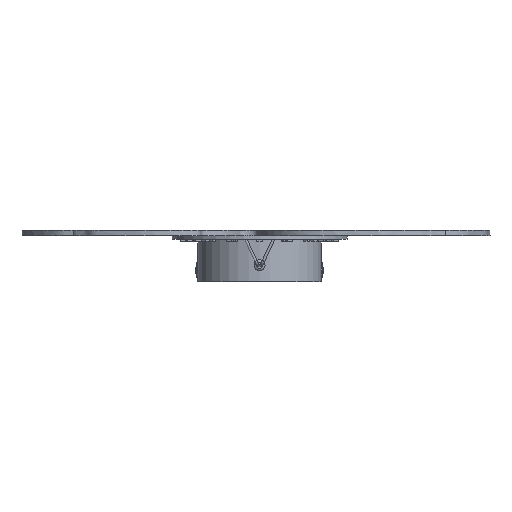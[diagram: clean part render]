
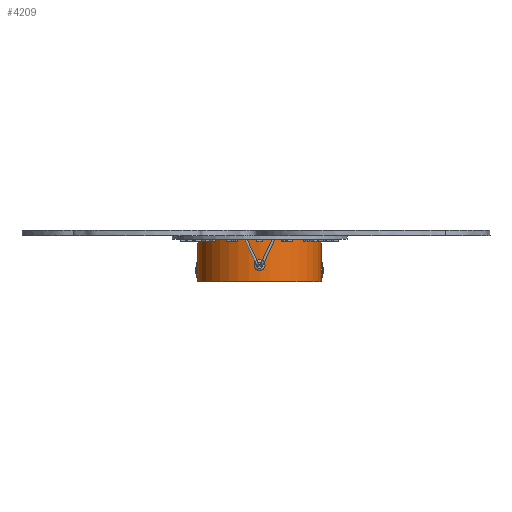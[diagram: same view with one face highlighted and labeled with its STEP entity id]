
A CAD part, front view. The second image highlights one B-rep face of the part: STEP entity #4209.
In plain terms, the highlighted cylindrical face has radius 33.5 mm (diameter 67 mm), a full revolution.
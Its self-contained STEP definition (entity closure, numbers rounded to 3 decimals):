
#25=FACE_BOUND('',#763,.T.);
#74=B_SPLINE_CURVE_WITH_KNOTS('',3,(#11605,#11606,#11607,#11608,#11609,
#11610),.UNSPECIFIED.,.F.,.F.,(4,2,4),(0.641,0.801,
0.84),.UNSPECIFIED.);
#75=B_SPLINE_CURVE_WITH_KNOTS('',3,(#11611,#11612,#11613,#11614,#11615,
#11616),.UNSPECIFIED.,.F.,.F.,(4,2,4),(0.442,0.481,
0.641),.UNSPECIFIED.);
#77=B_SPLINE_CURVE_WITH_KNOTS('',3,(#11629,#11630,#11631,#11632,#11633,
#11634),.UNSPECIFIED.,.F.,.F.,(4,2,4),(1.923,2.084,
2.123),.UNSPECIFIED.);
#78=B_SPLINE_CURVE_WITH_KNOTS('',3,(#11636,#11637,#11638,#11639,#11640,
#11641),.UNSPECIFIED.,.F.,.F.,(4,2,4),(1.724,1.763,
1.923),.UNSPECIFIED.);
#479=FACE_OUTER_BOUND('',#762,.T.);
#762=EDGE_LOOP('',(#3269,#3270,#3271,#3272,#3273,#3274,#3275,#3276,#3277,
#3278,#3279,#3280));
#763=EDGE_LOOP('',(#3281,#3282,#3283,#3284,#3285));
#1048=LINE('',#11579,#1524);
#1052=LINE('',#11591,#1528);
#1058=LINE('',#11655,#1534);
#1060=LINE('',#11660,#1536);
#1064=LINE('',#11680,#1540);
#1065=LINE('',#11682,#1541);
#1524=VECTOR('',#5065,10.);
#1528=VECTOR('',#5077,10.);
#1534=VECTOR('',#5089,10.);
#1536=VECTOR('',#5093,10.);
#1540=VECTOR('',#5119,33.5);
#1541=VECTOR('',#5120,33.5);
#1965=CIRCLE('',#4576,33.5);
#1967=CIRCLE('',#4584,33.5);
#1968=CIRCLE('',#4585,33.5);
#1972=CIRCLE('',#4592,33.5);
#1973=CIRCLE('',#4593,33.5);
#2084=VERTEX_POINT('',#11576);
#2085=VERTEX_POINT('',#11578);
#2087=VERTEX_POINT('',#11584);
#2089=VERTEX_POINT('',#11590);
#2090=VERTEX_POINT('',#11604);
#2093=VERTEX_POINT('',#11626);
#2094=VERTEX_POINT('',#11628);
#2095=VERTEX_POINT('',#11635);
#2098=VERTEX_POINT('',#11653);
#2100=VERTEX_POINT('',#11659);
#2102=VERTEX_POINT('',#11665);
#2105=VERTEX_POINT('',#11678);
#2106=VERTEX_POINT('',#11681);
#2512=EDGE_CURVE('',#2085,#2084,#1048,.T.);
#2515=EDGE_CURVE('',#2087,#2085,#1965,.T.);
#2518=EDGE_CURVE('',#2089,#2087,#1052,.T.);
#2521=EDGE_CURVE('',#2090,#2089,#74,.T.);
#2522=EDGE_CURVE('',#2084,#2090,#75,.T.);
#2525=EDGE_CURVE('',#2094,#2093,#77,.T.);
#2526=EDGE_CURVE('',#2095,#2094,#78,.T.);
#2531=EDGE_CURVE('',#2093,#2098,#1058,.T.);
#2533=EDGE_CURVE('',#2100,#2095,#1060,.T.);
#2536=EDGE_CURVE('',#2102,#2100,#1967,.T.);
#2537=EDGE_CURVE('',#2098,#2102,#1968,.T.);
#2543=EDGE_CURVE('',#2105,#2105,#1972,.T.);
#2544=EDGE_CURVE('',#2105,#2102,#1064,.T.);
#2545=EDGE_CURVE('',#2094,#2106,#1065,.T.);
#2546=EDGE_CURVE('',#2106,#2106,#1973,.T.);
#3269=ORIENTED_EDGE('',*,*,#2543,.F.);
#3270=ORIENTED_EDGE('',*,*,#2544,.T.);
#3271=ORIENTED_EDGE('',*,*,#2536,.T.);
#3272=ORIENTED_EDGE('',*,*,#2533,.T.);
#3273=ORIENTED_EDGE('',*,*,#2526,.T.);
#3274=ORIENTED_EDGE('',*,*,#2545,.T.);
#3275=ORIENTED_EDGE('',*,*,#2546,.T.);
#3276=ORIENTED_EDGE('',*,*,#2545,.F.);
#3277=ORIENTED_EDGE('',*,*,#2525,.T.);
#3278=ORIENTED_EDGE('',*,*,#2531,.T.);
#3279=ORIENTED_EDGE('',*,*,#2537,.T.);
#3280=ORIENTED_EDGE('',*,*,#2544,.F.);
#3281=ORIENTED_EDGE('',*,*,#2518,.T.);
#3282=ORIENTED_EDGE('',*,*,#2515,.T.);
#3283=ORIENTED_EDGE('',*,*,#2512,.T.);
#3284=ORIENTED_EDGE('',*,*,#2522,.T.);
#3285=ORIENTED_EDGE('',*,*,#2521,.T.);
#4136=CYLINDRICAL_SURFACE('',#4591,33.5);
#4209=ADVANCED_FACE('',(#479,#25),#4136,.T.);
#4576=AXIS2_PLACEMENT_3D('',#11585,#5071,#5072);
#4584=AXIS2_PLACEMENT_3D('',#11666,#5099,#5100);
#4585=AXIS2_PLACEMENT_3D('',#11667,#5101,#5102);
#4591=AXIS2_PLACEMENT_3D('',#11677,#5115,#5116);
#4592=AXIS2_PLACEMENT_3D('',#11679,#5117,#5118);
#4593=AXIS2_PLACEMENT_3D('',#11683,#5121,#5122);
#5065=DIRECTION('',(0.,0.,1.));
#5071=DIRECTION('center_axis',(0.,0.,-1.));
#5072=DIRECTION('ref_axis',(-1.,0.,0.));
#5077=DIRECTION('',(0.,0.,-1.));
#5089=DIRECTION('',(0.,0.,-1.));
#5093=DIRECTION('',(0.,0.,1.));
#5099=DIRECTION('center_axis',(0.,0.,-1.));
#5100=DIRECTION('ref_axis',(-1.,0.,0.));
#5101=DIRECTION('center_axis',(0.,0.,-1.));
#5102=DIRECTION('ref_axis',(-1.,0.,0.));
#5115=DIRECTION('center_axis',(0.,0.,-1.));
#5116=DIRECTION('ref_axis',(-1.,0.,0.));
#5117=DIRECTION('center_axis',(0.,0.,-1.));
#5118=DIRECTION('ref_axis',(-1.,0.,0.));
#5119=DIRECTION('',(0.,0.,1.));
#5120=DIRECTION('',(0.,0.,1.));
#5121=DIRECTION('center_axis',(0.,0.,-1.));
#5122=DIRECTION('ref_axis',(-1.,0.,0.));
#11576=CARTESIAN_POINT('',(-33.44,-35.,-13.517));
#11578=CARTESIAN_POINT('',(-33.44,-35.,-20.517));
#11579=CARTESIAN_POINT('',(-33.44,-35.,-17.017));
#11584=CARTESIAN_POINT('',(-33.44,-39.,-20.517));
#11585=CARTESIAN_POINT('Origin',(0.,-37.,-20.517));
#11590=CARTESIAN_POINT('',(-33.44,-39.,-13.517));
#11591=CARTESIAN_POINT('',(-33.44,-39.,0.));
#11604=CARTESIAN_POINT('',(-33.5,-37.,-13.017));
#11605=CARTESIAN_POINT('Ctrl Pts',(-33.5,-37.,-13.017));
#11606=CARTESIAN_POINT('Ctrl Pts',(-33.5,-37.534,-13.017));
#11607=CARTESIAN_POINT('Ctrl Pts',(-33.486,-38.104,
-13.124));
#11608=CARTESIAN_POINT('Ctrl Pts',(-33.454,-38.754,-13.394));
#11609=CARTESIAN_POINT('Ctrl Pts',(-33.447,-38.879,-13.452));
#11610=CARTESIAN_POINT('Ctrl Pts',(-33.44,-39.,
-13.517));
#11611=CARTESIAN_POINT('Ctrl Pts',(-33.44,-35.,-13.517));
#11612=CARTESIAN_POINT('Ctrl Pts',(-33.447,-35.121,
-13.452));
#11613=CARTESIAN_POINT('Ctrl Pts',(-33.454,-35.246,
-13.394));
#11614=CARTESIAN_POINT('Ctrl Pts',(-33.486,-35.896,
-13.124));
#11615=CARTESIAN_POINT('Ctrl Pts',(-33.5,-36.466,
-13.017));
#11616=CARTESIAN_POINT('Ctrl Pts',(-33.5,-37.,-13.017));
#11626=CARTESIAN_POINT('',(33.44,-35.,-13.517));
#11628=CARTESIAN_POINT('',(33.5,-37.,-13.017));
#11629=CARTESIAN_POINT('Ctrl Pts',(33.5,-37.,-13.017));
#11630=CARTESIAN_POINT('Ctrl Pts',(33.5,-36.466,-13.017));
#11631=CARTESIAN_POINT('Ctrl Pts',(33.486,-35.896,-13.124));
#11632=CARTESIAN_POINT('Ctrl Pts',(33.454,-35.246,-13.394));
#11633=CARTESIAN_POINT('Ctrl Pts',(33.447,-35.121,-13.452));
#11634=CARTESIAN_POINT('Ctrl Pts',(33.44,-35.,-13.517));
#11635=CARTESIAN_POINT('',(33.44,-39.,-13.517));
#11636=CARTESIAN_POINT('Ctrl Pts',(33.44,-39.,-13.517));
#11637=CARTESIAN_POINT('Ctrl Pts',(33.447,-38.879,-13.452));
#11638=CARTESIAN_POINT('Ctrl Pts',(33.454,-38.754,-13.394));
#11639=CARTESIAN_POINT('Ctrl Pts',(33.486,-38.104,-13.124));
#11640=CARTESIAN_POINT('Ctrl Pts',(33.5,-37.534,-13.017));
#11641=CARTESIAN_POINT('Ctrl Pts',(33.5,-37.,-13.017));
#11653=CARTESIAN_POINT('',(33.44,-35.,-20.517));
#11655=CARTESIAN_POINT('',(33.44,-35.,-17.017));
#11659=CARTESIAN_POINT('',(33.44,-39.,-20.517));
#11660=CARTESIAN_POINT('',(33.44,-39.,0.));
#11665=CARTESIAN_POINT('',(33.5,-37.,-20.517));
#11666=CARTESIAN_POINT('Origin',(0.,-37.,-20.517));
#11667=CARTESIAN_POINT('Origin',(0.,-37.,-20.517));
#11677=CARTESIAN_POINT('Origin',(0.,-37.,0.));
#11678=CARTESIAN_POINT('',(33.5,-37.,-25.));
#11679=CARTESIAN_POINT('Origin',(0.,-37.,-25.));
#11680=CARTESIAN_POINT('',(33.5,-37.,0.));
#11681=CARTESIAN_POINT('',(33.5,-37.,0.));
#11682=CARTESIAN_POINT('',(33.5,-37.,0.));
#11683=CARTESIAN_POINT('Origin',(0.,-37.,0.));
